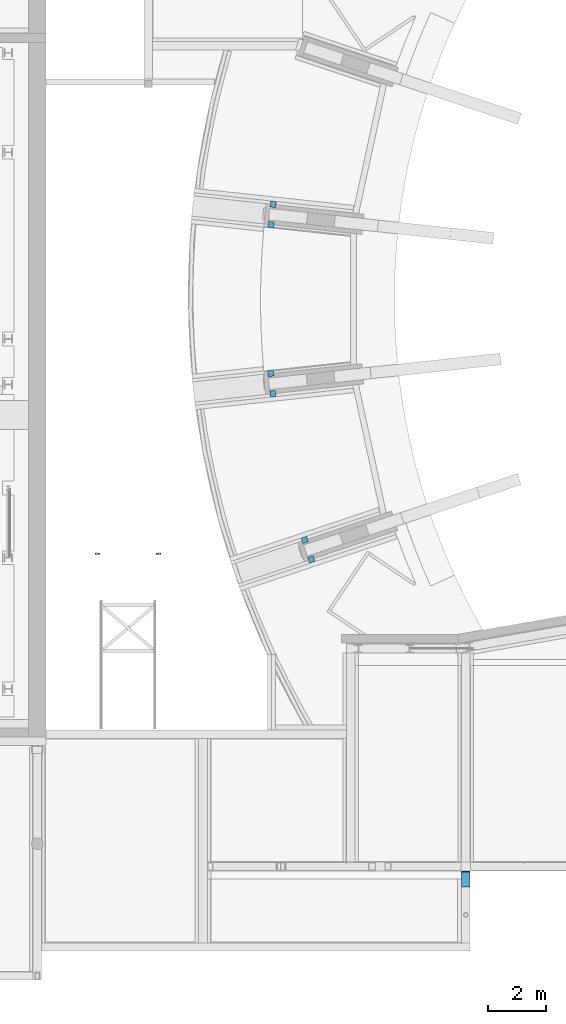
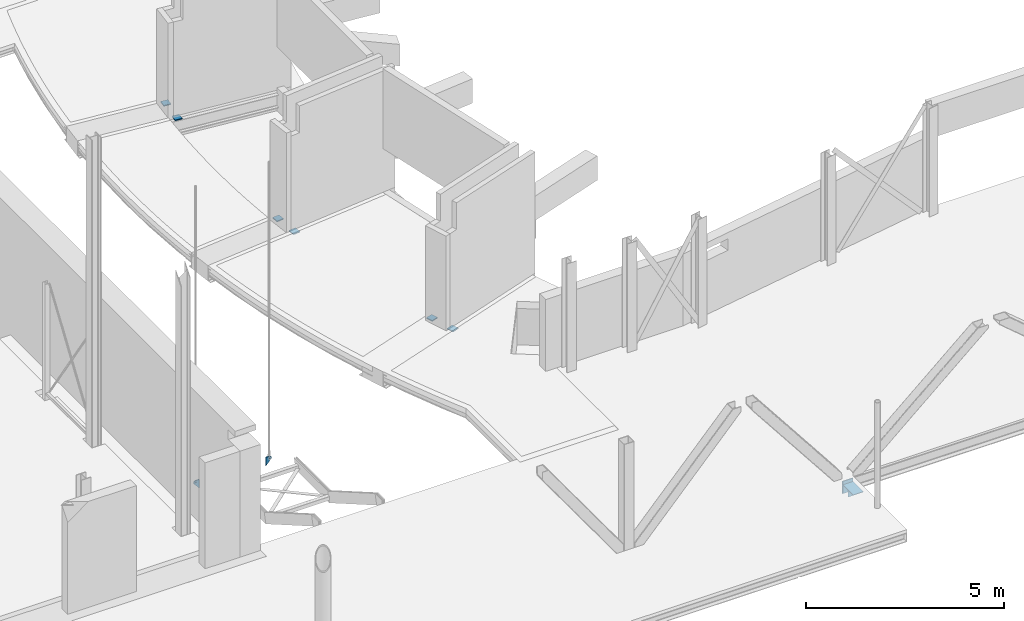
# One storey, part 21 of 37: 9 beams.
"""IFC2X3 building model written with IfcOpenShell, lengths in millimetres."""

import ifcopenshell
import ifcopenshell.guid

model = None  # the IFC model being written
_history = None  # IfcOwnerHistory: only IFC2X3 demands one
_inside = {}  # id of a spatial element -> (the spatial element, [elements in it])
_under = {}  # id of a project, library or spatial element -> (it, [spatial elements below it])
_declared = {}  # id of a project -> (the project, [libraries it declares])
_typed = {}  # id of a type object -> (the type object, [elements of that type])
_made_of = {}  # id of a material, layer set ... -> (it, [elements and type objects made of it])


def new_model(schema):
    """Start an empty IFC model of exactly this schema.

    Asked for "IFC4X3", IfcOpenShell would pick the latest addendum, in which some entities
    have other attributes; the version numbers below select the first issue.
    IFC2X3 requires an IfcOwnerHistory on every rooted entity: one is made here for all.
    """
    global model, _history
    if schema == "IFC4X3":
        model = ifcopenshell.file(schema_version=(4, 3, 0, 0))
    else:
        model = ifcopenshell.file(schema=schema)
    _inside.clear()
    _under.clear()
    _declared.clear()
    _typed.clear()
    _made_of.clear()
    _history = None
    if model.schema == "IFC2X3":
        org = make("IfcOrganization", Name="unknown")
        user = make(
            "IfcPersonAndOrganization",
            ThePerson=make("IfcPerson", FamilyName="unknown"),
            TheOrganization=org,
        )
        app = make(
            "IfcApplication",
            ApplicationDeveloper=org,
            Version="unknown",
            ApplicationFullName="unknown",
            ApplicationIdentifier="unknown",
        )
        _history = make(
            "IfcOwnerHistory",
            OwningUser=user,
            OwningApplication=app,
            ChangeAction="ADDED",
            CreationDate=0,
        )
    return model


def make(cls, **values):
    """One entity of the class cls with the attributes given. An attribute that is None is left unset."""
    return model.create_entity(
        cls, **{name: value for name, value in values.items() if value is not None}
    )


def entity(cls, *values):
    """Any entity or typed value of the class cls, its attributes in the order of the schema. None: left unset."""
    e = model.create_entity(cls)
    for i, value in enumerate(values):
        if value is not None:
            e[i] = value
    return e


def rooted(cls, **values):
    """An entity with a GlobalId (a new one), such as an element, a storey or a relation."""
    return make(cls, GlobalId=ifcopenshell.guid.new(), OwnerHistory=_history, **values)


def si_unit(unit_type, name, prefix=None):
    """IfcSIUnit, for example si_unit("LENGTHUNIT", "METRE", prefix="MILLI")."""
    return make("IfcSIUnit", UnitType=unit_type, Prefix=prefix, Name=name)


def converted_unit(unit_type, name, factor, base, dimensions=None, offset=None):
    """IfcConversionBasedUnit, such as the inch: factor (a typed value) times the base unit."""
    return make(
        "IfcConversionBasedUnit"
        if offset is None
        else "IfcConversionBasedUnitWithOffset",
        ConversionOffset=offset,
        Dimensions=None
        if dimensions is None
        else entity("IfcDimensionalExponents", *dimensions),
        UnitType=unit_type,
        Name=name,
        ConversionFactor=make(
            "IfcMeasureWithUnit", ValueComponent=factor, UnitComponent=base
        ),
    )


def derived_unit(unit_type, elements):
    """IfcDerivedUnit: a product of units, each with its exponent."""
    return make(
        "IfcDerivedUnit",
        Elements=[
            make("IfcDerivedUnitElement", Unit=unit, Exponent=power)
            for unit, power in elements
        ],
        UnitType=unit_type,
    )


def assignment(units):
    """IfcUnitAssignment: the units of a project."""
    return None if units is None else make("IfcUnitAssignment", Units=units)


def point(xyz):
    """IfcCartesianPoint."""
    return None if xyz is None else make("IfcCartesianPoint", Coordinates=xyz)


def direction(xyz):
    """IfcDirection."""
    return None if xyz is None else make("IfcDirection", DirectionRatios=xyz)


def frame(location, z_axis=None, x_axis=None):
    """IfcAxis2Placement3D, a coordinate frame: its origin and axes. An axis left out is left unset."""
    return make(
        "IfcAxis2Placement3D",
        Location=point(location),
        Axis=direction(z_axis),
        RefDirection=direction(x_axis),
    )


def frame_2d(location, x_axis=None):
    """IfcAxis2Placement2D, a coordinate frame in the plane: its origin and x axis."""
    return make(
        "IfcAxis2Placement2D", Location=point(location), RefDirection=direction(x_axis)
    )


def origin():
    """The frame at (0, 0, 0) with its axes left unset."""
    return frame((0.0, 0.0, 0.0))


def origin_2d_with_axis():
    """The frame at (0, 0) in the plane with the x axis (1, 0) written out."""
    return frame_2d((0.0, 0.0), x_axis=(1.0, 0.0))


def place(relative_to, where):
    """IfcLocalPlacement: puts the frame where relative to a parent placement (None: the world)."""
    return make(
        "IfcLocalPlacement", PlacementRelTo=relative_to, RelativePlacement=where
    )


def context(
    kind, dimensions, precision=None, world=None, true_north=None, identifier=None
):
    """IfcGeometricRepresentationContext, for example the 3D "Model" context."""
    return make(
        "IfcGeometricRepresentationContext",
        ContextIdentifier=identifier,
        ContextType=kind,
        CoordinateSpaceDimension=dimensions,
        Precision=precision,
        WorldCoordinateSystem=world,
        TrueNorth=true_north,
    )


def subcontext(parent, identifier, kind, view, scale=None):
    """IfcGeometricRepresentationSubContext, for example "Body" below "Model"."""
    return make(
        "IfcGeometricRepresentationSubContext",
        ContextIdentifier=identifier,
        ContextType=kind,
        ParentContext=parent,
        TargetScale=scale,
        TargetView=view,
    )


def project(units=None, contexts=None):
    """IfcProject with its units and contexts."""
    return rooted(
        "IfcProject",
        Name="project",
        RepresentationContexts=contexts,
        UnitsInContext=assignment(units),
    )


def spatial(cls, under=None, at=None, **own):
    """A site, building, storey or space (cls), placed at a placement, below another one or the project."""
    s = rooted(cls, ObjectPlacement=at, **own)
    if under is not None:
        _under.setdefault(under.id(), (under, []))[1].append(s)
    return s


def polyline(points):
    """IfcPolyline through the points."""
    return make("IfcPolyline", Points=[point(p) for p in points])


def circle_curve(where, radius):
    """IfcCircle in the frame where."""
    return make("IfcCircle", Position=where, Radius=radius)


def parameter(value):
    """IfcParameterValue: where a trimmed curve begins or ends, as a parameter of its basis curve."""
    return model.create_entity("IfcParameterValue", value)


def trimmed(basis, trim1, trim2, sense, master):
    """IfcTrimmedCurve: the piece of a basis curve between two trims."""
    return make(
        "IfcTrimmedCurve",
        BasisCurve=basis,
        Trim1=trim1,
        Trim2=trim2,
        SenseAgreement=sense,
        MasterRepresentation=master,
    )


def segment(curve, same_sense, transition):
    """IfcCompositeCurveSegment."""
    return make(
        "IfcCompositeCurveSegment",
        Transition=transition,
        SameSense=same_sense,
        ParentCurve=curve,
    )


def composite_curve(segments, self_intersect=None):
    """IfcCompositeCurve: segments joined end to end."""
    return make("IfcCompositeCurve", Segments=segments, SelfIntersect=self_intersect)


def profile(cls, at=None, kind="AREA", **sizes):
    """A parametric profile (cls). Its sizes go by their IFC names, for example OverallWidth=200.0."""
    return make(cls, ProfileType=kind, Position=at, **sizes)


def rectangle(**sizes):
    """IfcRectangleProfileDef."""
    return profile("IfcRectangleProfileDef", **sizes)


def outline(outer, holes=None, kind="AREA"):
    """IfcArbitraryClosedProfileDef: a profile drawn as a closed curve; with holes, ...WithVoids."""
    if holes is None:
        return make("IfcArbitraryClosedProfileDef", ProfileType=kind, OuterCurve=outer)
    return make(
        "IfcArbitraryProfileDefWithVoids",
        ProfileType=kind,
        OuterCurve=outer,
        InnerCurves=holes,
    )


def extrude(swept, where, along, depth):
    """IfcExtrudedAreaSolid: the profile swept, set in the frame where, extruded along a direction by depth."""
    return make(
        "IfcExtrudedAreaSolid",
        SweptArea=swept,
        Position=where,
        ExtrudedDirection=direction(along),
        Depth=depth,
    )


def shape(context_of_items, identifier, shape_type, items):
    """IfcShapeRepresentation: the items that make up one representation, for example the "Body"."""
    return make(
        "IfcShapeRepresentation",
        ContextOfItems=context_of_items,
        RepresentationIdentifier=identifier,
        RepresentationType=shape_type,
        Items=items,
    )


def source(mapping_origin, context_of_items, identifier, shape_type, items):
    """IfcRepresentationMap: a shape defined once, which mapped items show again and again."""
    return make(
        "IfcRepresentationMap",
        MappingOrigin=mapping_origin,
        MappedRepresentation=shape(context_of_items, identifier, shape_type, items),
    )


def transform(
    local_origin,
    x_axis=None,
    y_axis=None,
    z_axis=None,
    scale=None,
    scale2=None,
    scale3=None,
    uniform=True,
):
    """IfcCartesianTransformationOperator3D, or its non-uniform kind. x_axis, y_axis, z_axis: its Axis1, 2, 3."""
    if uniform:
        return make(
            "IfcCartesianTransformationOperator3D",
            Axis1=direction(x_axis),
            Axis2=direction(y_axis),
            LocalOrigin=point(local_origin),
            Scale=scale,
            Axis3=direction(z_axis),
        )
    return make(
        "IfcCartesianTransformationOperator3DnonUniform",
        Axis1=direction(x_axis),
        Axis2=direction(y_axis),
        LocalOrigin=point(local_origin),
        Scale=scale,
        Axis3=direction(z_axis),
        Scale2=scale2,
        Scale3=scale3,
    )


def mapped(mapping_source, mapping_target):
    """IfcMappedItem: shows the shape of a source again, moved by a transform."""
    return make(
        "IfcMappedItem", MappingSource=mapping_source, MappingTarget=mapping_target
    )


def material(Name=None, Category=None):
    """IfcMaterial."""
    return make("IfcMaterial", Name=Name, Category=Category)


def made_of(thing, what):
    """Note that an element or type object is made of a material, layer set ...; save() writes the relation."""
    if what is not None:
        _made_of.setdefault(what.id(), (what, []))[1].append(thing)
    return thing


def type_object(cls, material=None, **own):
    """A type object (cls), such as IfcWallType, which elements share."""
    return made_of(rooted(cls, **own), material)


def type_shapes(of_type, sources):
    """Give a type object the sources (RepresentationMaps) that its elements show as mapped items."""
    of_type.RepresentationMaps = sources


def element(
    cls,
    number,
    at=None,
    inside=None,
    cuts=None,
    type_object=None,
    material=None,
    context=None,
    identifier="Body",
    shape_type=None,
    held_by="IfcProductDefinitionShape",
    body=None,
    shapes=None,
    **own,
):
    """One element of the class cls, such as IfcWall. Its Tag is "e" and its number.

    at: its placement. inside: the storey or other place that contains it. cuts: it is an
    opening in that element (IfcRelVoidsElement). A single representation is given by context,
    identifier, shape_type and body (its items); several are given by shapes. held_by: the class
    of the entity that holds the representations. save() writes the other relations.
    """
    e = rooted(cls, Tag="e%d" % number, ObjectPlacement=at, **own)
    if body is not None:
        shapes = [shape(context, identifier, shape_type, body)]
    if shapes is not None:
        e.Representation = make(held_by, Representations=shapes)
    if inside is not None:
        _inside.setdefault(inside.id(), (inside, []))[1].append(e)
    if cuts is not None:
        rooted(
            "IfcRelVoidsElement", RelatingBuildingElement=cuts, RelatedOpeningElement=e
        )
    if type_object is not None:
        _typed.setdefault(type_object.id(), (type_object, []))[1].append(e)
    return made_of(e, material)


def aggregate(whole, parts):
    """IfcRelAggregates: a whole, such as a stair, and the parts it consists of."""
    return rooted("IfcRelAggregates", RelatingObject=whole, RelatedObjects=parts)


def save(model, path):
    """Write the relations noted so far, then the file.

    IfcRelAggregates (storeys below a building ...), IfcRelContainedInSpatialStructure (elements
    in a storey), IfcRelDefinesByType, IfcRelAssociatesMaterial and IfcRelDeclares: one each for
    every whole, place, type object, material and project.
    """
    for whole, parts in _under.values():
        aggregate(whole, parts)
    for where, things in _inside.values():
        rooted(
            "IfcRelContainedInSpatialStructure",
            RelatedElements=things,
            RelatingStructure=where,
        )
    for kind, things in _typed.values():
        rooted("IfcRelDefinesByType", RelatedObjects=things, RelatingType=kind)
    for what, things in _made_of.values():
        rooted("IfcRelAssociatesMaterial", RelatedObjects=things, RelatingMaterial=what)
    for by, libraries in _declared.values():
        rooted("IfcRelDeclares", RelatingContext=by, RelatedDefinitions=libraries)
    model.write(path)


model = new_model("IFC2X3")

# Units and contexts
model_context = context("Model", 3, precision=0.01, world=origin(), true_north=direction((6.12303176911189e-17, 1.0)))
body_context = subcontext(model_context, "Body", "Model", "MODEL_VIEW")
ifc_project = project(units=[si_unit("LENGTHUNIT", "METRE", prefix="MILLI"), si_unit("AREAUNIT", "SQUARE_METRE", prefix="MILLI"), si_unit("VOLUMEUNIT", "CUBIC_METRE"), converted_unit("PLANEANGLEUNIT", "DEGREE", entity("IfcRatioMeasure", 0.0174532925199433), si_unit("PLANEANGLEUNIT", "RADIAN"), dimensions=[0, 0, 0, 0, 0, 0, 0]), si_unit("MASSUNIT", "GRAM", prefix="KILO"), derived_unit("MASSDENSITYUNIT", [(si_unit("MASSUNIT", "GRAM", prefix="KILO"), 1), (si_unit("LENGTHUNIT", "METRE"), -3)]), derived_unit("MOMENTOFINERTIAUNIT", [(si_unit("LENGTHUNIT", "METRE"), 4)]), si_unit("TIMEUNIT", "SECOND"), si_unit("FREQUENCYUNIT", "HERTZ"), si_unit("THERMODYNAMICTEMPERATUREUNIT", "DEGREE_CELSIUS"), derived_unit("THERMALTRANSMITTANCEUNIT", [(si_unit("MASSUNIT", "GRAM", prefix="KILO"), 1), (si_unit("THERMODYNAMICTEMPERATUREUNIT", "KELVIN"), -1), (si_unit("TIMEUNIT", "SECOND"), -3)]), derived_unit("VOLUMETRICFLOWRATEUNIT", [(si_unit("LENGTHUNIT", "METRE"), 3), (si_unit("TIMEUNIT", "SECOND"), -1)]), si_unit("ELECTRICCURRENTUNIT", "AMPERE"), si_unit("ELECTRICVOLTAGEUNIT", "VOLT"), si_unit("POWERUNIT", "WATT"), si_unit("FORCEUNIT", "NEWTON", prefix="KILO"), si_unit("ILLUMINANCEUNIT", "LUX"), si_unit("LUMINOUSFLUXUNIT", "LUMEN"), si_unit("LUMINOUSINTENSITYUNIT", "CANDELA"), derived_unit("USERDEFINED", [(si_unit("MASSUNIT", "GRAM", prefix="KILO"), -1), (si_unit("LENGTHUNIT", "METRE"), -2), (si_unit("TIMEUNIT", "SECOND"), 3), (si_unit("LUMINOUSFLUXUNIT", "LUMEN"), 1)]), derived_unit("LINEARVELOCITYUNIT", [(si_unit("LENGTHUNIT", "METRE"), 1), (si_unit("TIMEUNIT", "SECOND"), -1)]), si_unit("PRESSUREUNIT", "PASCAL"), derived_unit("USERDEFINED", [(si_unit("LENGTHUNIT", "METRE"), -2), (si_unit("MASSUNIT", "GRAM", prefix="KILO"), 1), (si_unit("TIMEUNIT", "SECOND"), -2)]), derived_unit("LINEARFORCEUNIT", [(si_unit("MASSUNIT", "GRAM", prefix="KILO"), 1), (si_unit("LENGTHUNIT", "METRE"), 1), (si_unit("TIMEUNIT", "SECOND"), -2), (si_unit("LENGTHUNIT", "METRE"), -1)]), derived_unit("PLANARFORCEUNIT", [(si_unit("MASSUNIT", "GRAM", prefix="KILO"), 1), (si_unit("LENGTHUNIT", "METRE"), 1), (si_unit("TIMEUNIT", "SECOND"), -2), (si_unit("LENGTHUNIT", "METRE"), -2)])], contexts=[model_context])

# Site, building, storey
site_placement = place(None, origin())
site = spatial("IfcSite", under=ifc_project, at=site_placement, Name="Theater aan de Parade", CompositionType="ELEMENT")
building_placement = place(site_placement, origin())
building = spatial("IfcBuilding", under=site, at=building_placement, Name="Theater aan de Parade", CompositionType="ELEMENT")
storey_placement = place(building_placement, frame((0.0, 0.0, 5020.0)))
storey = spatial("IfcBuildingStorey", under=building, at=storey_placement, Name="01 eerste verdieping", CompositionType="ELEMENT", Elevation=5020.0)

# Beams
ifc_material_1 = material(Name="00_PBT_MAT_staal")
beam_type_1 = type_object("IfcBeamType", Name="28_PBT_SF_staal_strip:strip 200x30_opgelaste plaat", PredefinedType="NOTDEFINED")
beam_1_placement = place(storey_placement, frame((46250.7170097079, 24141.4373325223, 0.0), z_axis=(0.0, 0.0, 1.0), x_axis=(0.948323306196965, 0.317305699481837, 0.0)))
element("IfcBeam", 1, at=beam_1_placement, inside=storey, type_object=beam_type_1, material=ifc_material_1, Name="28_PBT_SF_staal_strip:strip 200x30_opgelaste plaat", ObjectType="28_PBT_SF_staal_strip:strip 200x30_opgelaste plaat", context=body_context, shape_type="SweptSolid", body=[
    extrude(rectangle(XDim=30.0000000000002, YDim=199.999999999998, at=frame_2d((2.70894418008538e-13, 2.05346850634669e-12), x_axis=(1.0, 0.0))), frame((0.0, 0.0, -140.0), z_axis=(1.0, 0.0, 0.0), x_axis=(0.0, 0.0, -1.0)), (0.0, 0.0, 1.0), 200.000000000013),
])
beam_2_placement = place(storey_placement, frame((45074.4908230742, 29889.2000064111, 0.0), z_axis=(0.0, 0.0, 1.0), x_axis=(0.994276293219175, 0.106839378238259, 0.0)))
element("IfcBeam", 2, at=beam_2_placement, inside=storey, type_object=beam_type_1, material=ifc_material_1, Name="28_PBT_SF_staal_strip:strip 200x30_opgelaste plaat", ObjectType="28_PBT_SF_staal_strip:strip 200x30_opgelaste plaat", context=body_context, shape_type="SweptSolid", body=[
    extrude(rectangle(XDim=30.0000000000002, YDim=200.000000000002, at=frame_2d((2.70894418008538e-13, 0.0), x_axis=(1.0, 0.0))), frame((0.0, 0.0, -140.0), z_axis=(1.0, 0.0, 0.0), x_axis=(0.0, 0.0, -1.0)), (0.0, 0.0, 1.0), 200.000000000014),
])
beam_3_placement = place(storey_placement, frame((45149.2783878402, 29193.2066011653, 0.0), z_axis=(0.0, 0.0, 1.0), x_axis=(0.99427629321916, 0.106839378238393, 0.0)))
element("IfcBeam", 3, at=beam_3_placement, inside=storey, type_object=beam_type_1, material=ifc_material_1, Name="28_PBT_SF_staal_strip:strip 200x30_opgelaste plaat", ObjectType="28_PBT_SF_staal_strip:strip 200x30_opgelaste plaat", context=body_context, shape_type="SweptSolid", body=[
    extrude(rectangle(XDim=30.0000000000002, YDim=199.999999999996, at=frame_2d((2.70894418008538e-13, 0.0), x_axis=(1.0, 0.0))), frame((0.0, 0.0, -140.0), z_axis=(1.0, 0.0, 0.0), x_axis=(0.0, 0.0, -1.0)), (0.0, 0.0, 1.0), 200.000000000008),
])
beam_4_placement = place(storey_placement, frame((46472.8309993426, 23477.6110181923, 0.0), z_axis=(0.0, 0.0, 1.0), x_axis=(0.948323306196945, 0.317305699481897, 0.0)))
element("IfcBeam", 4, at=beam_4_placement, inside=storey, type_object=beam_type_1, material=ifc_material_1, Name="28_PBT_SF_staal_strip:strip 200x30_opgelaste plaat", ObjectType="28_PBT_SF_staal_strip:strip 200x30_opgelaste plaat", context=body_context, shape_type="SweptSolid", body=[
    extrude(rectangle(XDim=30.0000000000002, YDim=199.999999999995, at=frame_2d((2.70894418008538e-13, -5.47117906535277e-12), x_axis=(1.0, 0.0))), frame((0.0, 0.0, -140.0), z_axis=(1.0, 0.0, 0.0), x_axis=(0.0, 0.0, -1.0)), (0.0, 0.0, 1.0), 200.000000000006),
])
beam_5_placement = place(storey_placement, frame((45159.8676620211, 35718.8216004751, 0.0), z_axis=(0.0, 0.0, 1.0), x_axis=(0.994276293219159, -0.106839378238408, 0.0)))
element("IfcBeam", 5, at=beam_5_placement, inside=storey, type_object=beam_type_1, material=ifc_material_1, Name="28_PBT_SF_staal_strip:strip 200x30_opgelaste plaat", ObjectType="28_PBT_SF_staal_strip:strip 200x30_opgelaste plaat", context=body_context, shape_type="SweptSolid", body=[
    extrude(rectangle(XDim=30.0000000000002, YDim=199.999999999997, at=frame_2d((2.70894418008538e-13, 4.76063632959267e-12), x_axis=(1.0, 0.0))), frame((0.0, 0.0, -140.0), z_axis=(1.0, 0.0, 0.0), x_axis=(0.0, 0.0, -1.0)), (0.0, 0.0, 1.0), 200.000000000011),
])
beam_6_placement = place(storey_placement, frame((45085.080097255, 35022.8281952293, 0.0), z_axis=(0.0, 0.0, 1.0), x_axis=(0.994276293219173, -0.106839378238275, 0.0)))
element("IfcBeam", 6, at=beam_6_placement, inside=storey, type_object=beam_type_1, material=ifc_material_1, Name="28_PBT_SF_staal_strip:strip 200x30_opgelaste plaat", ObjectType="28_PBT_SF_staal_strip:strip 200x30_opgelaste plaat", context=body_context, shape_type="SweptSolid", body=[
    extrude(rectangle(XDim=30.0000000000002, YDim=199.999999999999, at=frame_2d((2.70894418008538e-13, 2.1529444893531e-12), x_axis=(1.0, 0.0))), frame((0.0, 0.0, -140.0), z_axis=(1.0, 0.0, 0.0), x_axis=(0.0, 0.0, -1.0)), (0.0, 0.0, 1.0), 200.000000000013),
])
ifc_material_2 = material(Name="00_PBT_MAT_staal_S355")
beam_type_2 = type_object("IfcBeamType", Name="28_PBT_SF_staal_ingelaste schotten roldeur expeditie:schotten", PredefinedType="BEAM", material=ifc_material_2)
shared_shape = source(origin(), body_context, "Body", "SweptSolid", [
    extrude(rectangle(XDim=519.999999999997, YDim=300.000000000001, at=frame_2d((-1.08002495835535e-12, 0.0), x_axis=(1.0, 0.0))), frame((51875.3051596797, 12515.0, 4760.0), z_axis=(0.0, 0.0, 1.0), x_axis=(0.0, -1.0, 0.0)), (0.0, 0.0, 1.0), 15.0000000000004),
    extrude(rectangle(XDim=15.0000000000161, YDim=300.000000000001, at=frame_2d((3.24851257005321e-12, 0.0), x_axis=(1.0, 0.0))), frame((51875.3051596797, 12782.4999999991, 4495.0), z_axis=(0.0, 0.0, 1.0), x_axis=(0.0, -1.0, 0.0)), (0.0, 0.0, 1.0), 379.999999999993),
    extrude(rectangle(XDim=15.0000000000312, YDim=300.000000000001, at=origin_2d_with_axis()), frame((51875.3051596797, 12797.4999999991, 4495.0), z_axis=(0.0, 0.0, 1.0), x_axis=(0.0, -1.0, 0.0)), (0.0, 0.0, 1.0), 379.999999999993),
    extrude(rectangle(XDim=15.0000000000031, YDim=300.000000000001, at=origin_2d_with_axis()), frame((51875.3051596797, 12512.4999999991, 4555.0), z_axis=(0.0, 0.0, 1.0), x_axis=(0.0, -1.0, 0.0)), (0.0, 0.0, 1.0), 204.999999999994),
])
type_shapes(beam_type_2, [shared_shape])
beam_7_placement = place(storey_placement, frame((0.0, 0.0, -5020.0)))
element("IfcBeam", 7, at=beam_7_placement, inside=storey, type_object=beam_type_2, material=ifc_material_2, Name="28_PBT_SF_staal_ingelaste schotten roldeur expeditie:schotten", ObjectType="28_PBT_SF_staal_ingelaste schotten roldeur expeditie:schotten", context=body_context, shape_type="MappedRepresentation", body=[
    mapped(shared_shape, transform((0.0, 0.0, 0.0), scale=1.0)),
])
beam_type_3 = type_object("IfcBeamType", Name="28_PBT_SF_staal_aangelaste plaat trapboom willemsanker:plaat", PredefinedType="NOTDEFINED")
beam_8_placement = place(storey_placement, origin())
element("IfcBeam", 8, at=beam_8_placement, inside=storey, type_object=beam_type_3, material=ifc_material_2, Name="28_PBT_SF_staal_aangelaste plaat trapboom willemsanker:plaat", ObjectType="28_PBT_SF_staal_aangelaste plaat trapboom willemsanker:plaat", context=body_context, shape_type="SweptSolid", body=[
    extrude(outline(composite_curve([segment(polyline([(-171.969601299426, -68.767274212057), (49.4733936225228, -68.7672742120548)]), True, "CONTINUOUS"), segment(trimmed(circle_curve(frame_2d((49.473393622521, -8.76727421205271), x_axis=(0.659721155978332, -0.751510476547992)), 60.0000000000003), [parameter(318.721389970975)], [parameter(90.0)], True, "PARAMETER"), True, "CONTINUOUS"), segment(polyline([(94.5640222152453, 30.8159951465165), (27.9321854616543, 106.718553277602)]), True, "CONTINUOUS"), segment(polyline([(27.9321854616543, 106.718553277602), (-171.969601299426, -68.767274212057)]), True, "CONTINUOUS")], self_intersect=False), holes=[composite_curve([segment(trimmed(circle_curve(frame_2d((49.473393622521, -8.76727421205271), x_axis=(0.659721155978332, -0.751510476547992)), 15.0), [parameter(180.0)], [parameter(1.52666624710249e-13)], True, "PARAMETER"), False, "CONTINUOUS"), segment(trimmed(circle_curve(frame_2d((49.473393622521, -8.76727421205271), x_axis=(0.659721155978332, -0.751510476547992)), 15.0), [parameter(4.07110999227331e-13)], [parameter(180.0)], True, "PARAMETER"), False, "CONTINUOUS")], self_intersect=False)]), frame((39235.0555360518, 23692.4999999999, -2441.39581733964), z_axis=(0.0, 1.0, 0.0), x_axis=(-0.659721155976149, 0.0, 0.7515104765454)), (0.0, 0.0, 1.0), 24.9999999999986),
])
beam_9_placement = place(storey_placement, origin())
element("IfcBeam", 9, at=beam_9_placement, inside=storey, type_object=beam_type_3, material=ifc_material_2, Name="28_PBT_SF_staal_aangelaste plaat trapboom willemsanker:plaat", ObjectType="28_PBT_SF_staal_aangelaste plaat trapboom willemsanker:plaat", context=body_context, shape_type="SweptSolid", body=[
    extrude(outline(composite_curve([segment(polyline([(-174.604182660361, -61.7726571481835), (91.3958173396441, -61.7726571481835)]), True, "CONTINUOUS"), segment(polyline([(91.3958173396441, -61.7726571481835), (91.3958173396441, 39.2273428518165)]), True, "CONTINUOUS"), segment(trimmed(circle_curve(frame_2d((31.3958173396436, 39.2273428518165), x_axis=(0.0, 1.0)), 60.0000000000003), [parameter(270.0)], [parameter(41.2786100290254)], True, "PARAMETER"), True, "CONTINUOUS"), segment(polyline([(-8.18745201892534, 84.3179714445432), (-174.604182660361, -61.7726571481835)]), True, "CONTINUOUS")], self_intersect=False), holes=[composite_curve([segment(trimmed(circle_curve(frame_2d((31.3958173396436, 39.2273428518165), x_axis=(0.0, 1.0)), 15.0), [parameter(180.0)], [parameter(360.0)], True, "PARAMETER"), False, "CONTINUOUS"), segment(trimmed(circle_curve(frame_2d((31.3958173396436, 39.2273428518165), x_axis=(0.0, 1.0)), 15.0), [parameter(360.0)], [parameter(180.0)], True, "PARAMETER"), False, "CONTINUOUS")], self_intersect=False)]), frame((41298.600850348, 23692.4999999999, -2441.39581733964), z_axis=(0.0, 1.0, 0.0), x_axis=(0.0, 0.0, 1.0)), (0.0, 0.0, 1.0), 24.9999999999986),
])

save(model, "model.ifc")
